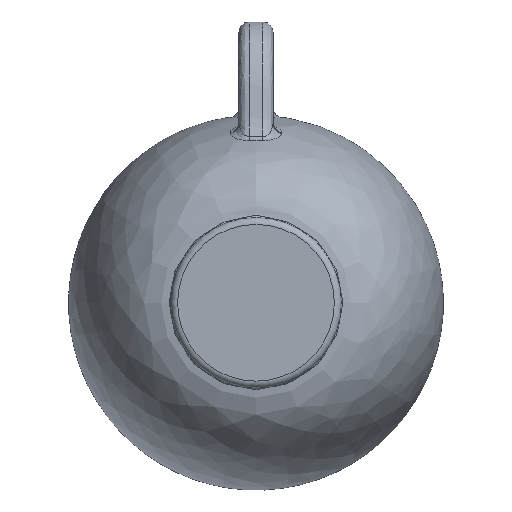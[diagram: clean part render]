
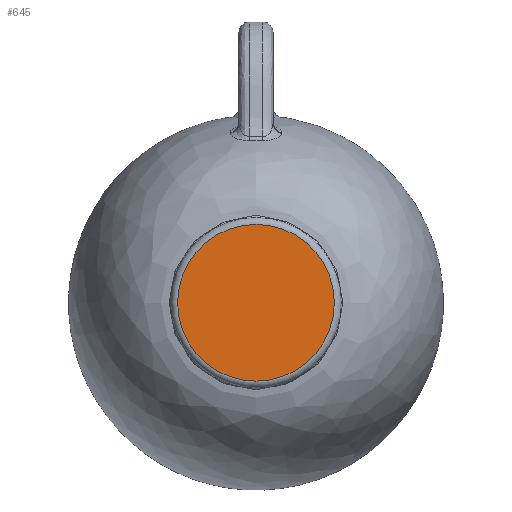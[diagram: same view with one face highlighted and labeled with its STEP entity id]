
A CAD part, front view. The second image highlights one B-rep face of the part: STEP entity #645.
In plain terms, the highlighted planar face has unit normal (0, -1, 0).
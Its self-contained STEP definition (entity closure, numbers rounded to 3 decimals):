
#35=PLANE('',#713);
#76=FACE_OUTER_BOUND('',#117,.T.);
#117=EDGE_LOOP('',(#577,#578));
#214=CIRCLE('',#711,23.);
#215=CIRCLE('',#712,23.);
#274=VERTEX_POINT('',#4048);
#275=VERTEX_POINT('',#4050);
#375=EDGE_CURVE('',#274,#275,#214,.T.);
#376=EDGE_CURVE('',#275,#274,#215,.T.);
#577=ORIENTED_EDGE('',*,*,#376,.F.);
#578=ORIENTED_EDGE('',*,*,#375,.F.);
#645=ADVANCED_FACE('',(#76),#35,.T.);
#711=AXIS2_PLACEMENT_3D('',#4051,#809,#810);
#712=AXIS2_PLACEMENT_3D('',#4052,#811,#812);
#713=AXIS2_PLACEMENT_3D('',#4053,#813,#814);
#809=DIRECTION('center_axis',(0.,1.,0.));
#810=DIRECTION('ref_axis',(0.,0.,-1.));
#811=DIRECTION('center_axis',(0.,1.,0.));
#812=DIRECTION('ref_axis',(0.,0.,-1.));
#813=DIRECTION('center_axis',(0.,-1.,0.));
#814=DIRECTION('ref_axis',(0.,0.,-1.));
#4048=CARTESIAN_POINT('',(0.,0.,-23.));
#4050=CARTESIAN_POINT('',(0.,0.,23.));
#4051=CARTESIAN_POINT('Origin',(0.,0.,0.));
#4052=CARTESIAN_POINT('Origin',(0.,0.,0.));
#4053=CARTESIAN_POINT('Origin',(0.,0.,25.));
